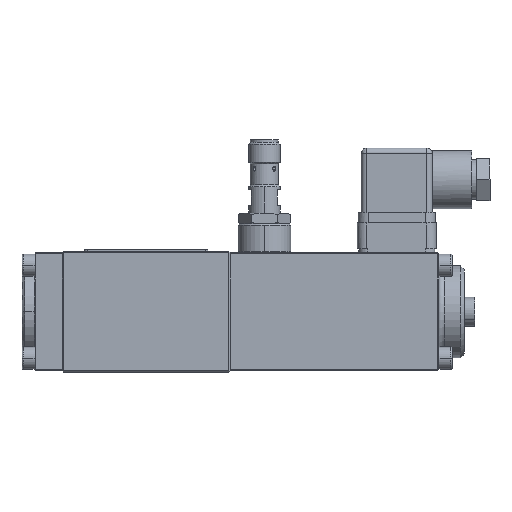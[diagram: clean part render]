
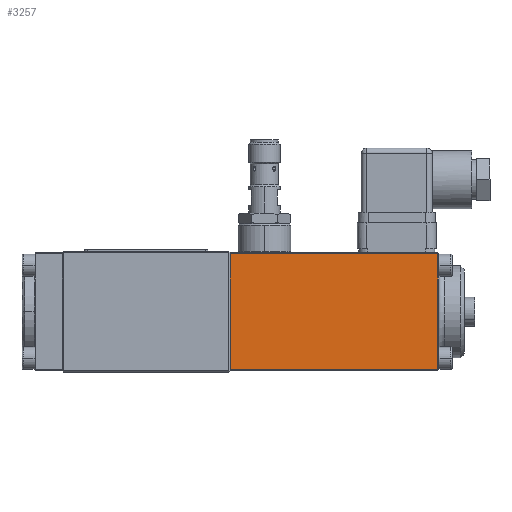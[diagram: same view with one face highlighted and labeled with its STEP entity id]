
A CAD part, top view. The second image highlights one B-rep face of the part: STEP entity #3257.
In plain terms, the highlighted planar face has unit normal (0, 0, 1).
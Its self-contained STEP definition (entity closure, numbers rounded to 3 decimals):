
#150 = EDGE_CURVE ( 'NONE', #11524, #19667, #6570, .T. ) ;
#1955 = LINE ( 'NONE', #3597, #17314 ) ;
#2352 = DIRECTION ( 'NONE',  ( -1., 0., 0. ) ) ;
#3257 = ADVANCED_FACE ( 'NONE', ( #7250 ), #13795, .F. ) ;
#3597 = CARTESIAN_POINT ( 'NONE',  ( 89., -22., 22.5 ) ) ;
#4016 = CARTESIAN_POINT ( 'NONE',  ( 64., -22., 22.5 ) ) ;
#4683 = ORIENTED_EDGE ( 'NONE', *, *, #7097, .T. ) ;
#4848 = VECTOR ( 'NONE', #17589, 1000. ) ;
#5702 = CARTESIAN_POINT ( 'NONE',  ( 64., 22., 22.5 ) ) ;
#6525 = LINE ( 'NONE', #13205, #15264 ) ;
#6570 = LINE ( 'NONE', #6783, #17840 ) ;
#6783 = CARTESIAN_POINT ( 'NONE',  ( 143., 22.5, 22.5 ) ) ;
#7097 = EDGE_CURVE ( 'NONE', #18323, #18638, #6525, .T. ) ;
#7250 = FACE_OUTER_BOUND ( 'NONE', #8083, .T. ) ;
#7358 = LINE ( 'NONE', #12195, #4848 ) ;
#8083 = EDGE_LOOP ( 'NONE', ( #12576, #4683, #8907, #11653 ) ) ;
#8907 = ORIENTED_EDGE ( 'NONE', *, *, #18511, .T. ) ;
#11524 = VERTEX_POINT ( 'NONE', #20771 ) ;
#11653 = ORIENTED_EDGE ( 'NONE', *, *, #150, .T. ) ;
#11659 = CARTESIAN_POINT ( 'NONE',  ( 143., 22., 22.5 ) ) ;
#12195 = CARTESIAN_POINT ( 'NONE',  ( 89., 22., 22.5 ) ) ;
#12576 = ORIENTED_EDGE ( 'NONE', *, *, #19145, .T. ) ;
#13205 = CARTESIAN_POINT ( 'NONE',  ( 64., 22.5, 22.5 ) ) ;
#13795 = PLANE ( 'NONE',  #17649 ) ;
#15264 = VECTOR ( 'NONE', #16536, 1000. ) ;
#16536 = DIRECTION ( 'NONE',  ( 0., -1., 0. ) ) ;
#16687 = DIRECTION ( 'NONE',  ( 0., 1., 0. ) ) ;
#17171 = CARTESIAN_POINT ( 'NONE',  ( 89., -22.5, 22.5 ) ) ;
#17209 = DIRECTION ( 'NONE',  ( 1., 0., 0. ) ) ;
#17314 = VECTOR ( 'NONE', #17209, 1000. ) ;
#17388 = DIRECTION ( 'NONE',  ( 0., 0., -1. ) ) ;
#17589 = DIRECTION ( 'NONE',  ( -1., 0., 0. ) ) ;
#17649 = AXIS2_PLACEMENT_3D ( 'NONE', #17171, #17388, #2352 ) ;
#17840 = VECTOR ( 'NONE', #16687, 1000. ) ;
#18323 = VERTEX_POINT ( 'NONE', #5702 ) ;
#18511 = EDGE_CURVE ( 'NONE', #18638, #11524, #1955, .T. ) ;
#18638 = VERTEX_POINT ( 'NONE', #4016 ) ;
#19145 = EDGE_CURVE ( 'NONE', #19667, #18323, #7358, .T. ) ;
#19667 = VERTEX_POINT ( 'NONE', #11659 ) ;
#20771 = CARTESIAN_POINT ( 'NONE',  ( 143., -22., 22.5 ) ) ;
